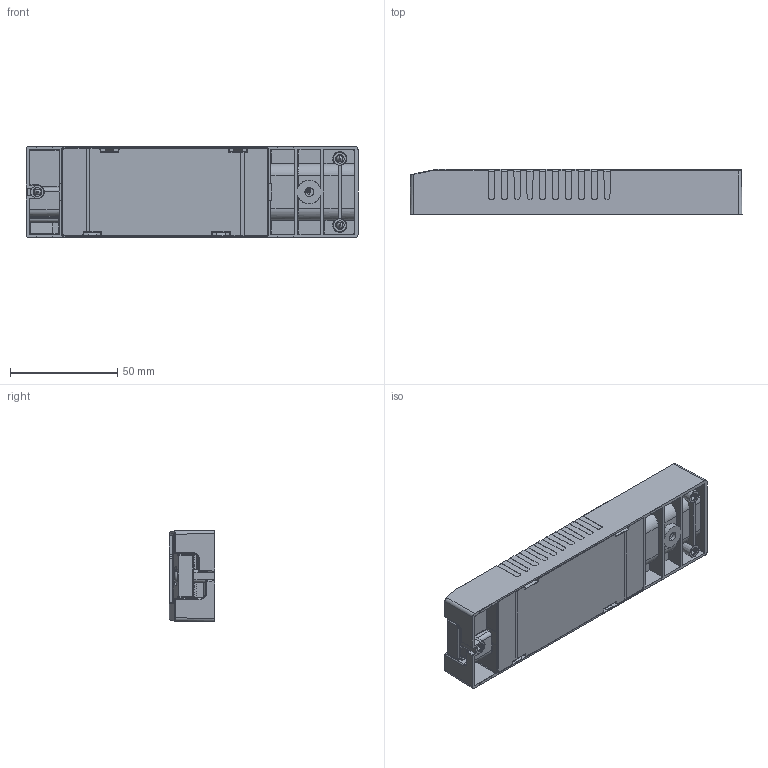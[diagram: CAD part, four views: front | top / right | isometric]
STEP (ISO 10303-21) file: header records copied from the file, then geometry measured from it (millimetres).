
FILE_DESCRIPTION (( 'STEP AP214' ), '1' );
FILE_NAME ('MiniFlat_21_CL2.STEP', '2022-11-21T08:06:00', ( '' ), ( '' ), 'SwSTEP 2.0', 'SolidWorks 2022', '' );
FILE_SCHEMA (( 'AUTOMOTIVE_DESIGN' ));
Length unit declared in the file: millimetre
Products named in the file (7): BL1019-488787708_COVER; BL1018-488787707_BASE; MiniFlat_21_CL2; BL1020-488787709_ClampPRI; BL1021-488787710_ClampSEC; VITE; BL1022-488787711_Reduction
Assembly tree (8 placements, depth 2):
  MiniFlat_21_CL2
    BL1018-488787707_BASE
    BL1019-488787708_COVER
    BL1021-488787710_ClampSEC
    VITE  x3
    BL1020-488787709_ClampPRI
    BL1022-488787711_Reduction
Bounding box: 154.97 x 21.21 x 42.67 mm (x, y, z)
Volume: 37519 mm3; surface area: 56852.6 mm2
Topology: 9 solids, 9 shells, 2901 faces, 7636 edges, 4860 vertices
Faces by surface type: plane 1300, cylinder 806, bspline 654, sphere 67, torus 42, cone 32
Entity records: 124817 total; most frequent: CARTESIAN_POINT 64875, ORIENTED_EDGE 13966, DIRECTION 10204, EDGE_CURVE 6983, VERTEX_POINT 4444, LINE 4178, VECTOR 4178, AXIS2_PLACEMENT_3D 3013
